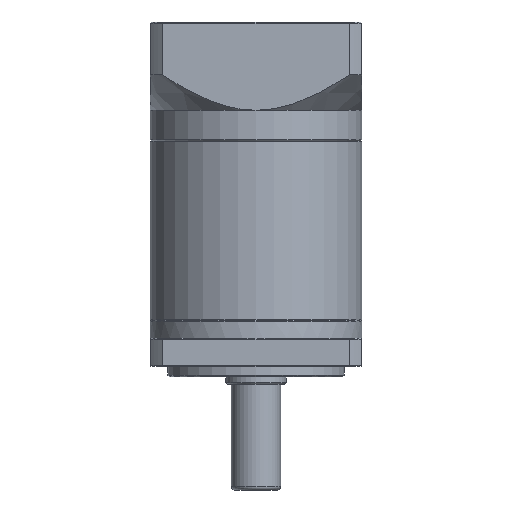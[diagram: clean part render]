
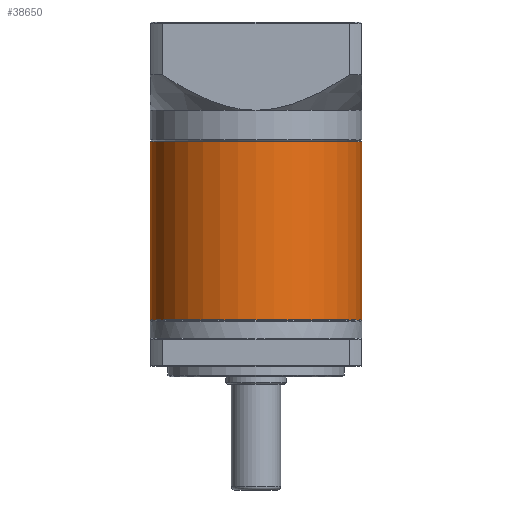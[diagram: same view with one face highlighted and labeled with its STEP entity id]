
A CAD part, front view. The second image highlights one B-rep face of the part: STEP entity #38650.
In plain terms, the highlighted cylindrical face has radius 30 mm (diameter 60 mm), a partial arc.
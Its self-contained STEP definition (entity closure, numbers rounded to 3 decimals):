
#2273 = VECTOR ( 'NONE', #21896, 1000. ) ;
#2776 = CARTESIAN_POINT ( 'NONE',  ( 1.856, 2.135, 121.95 ) ) ;
#5013 = VERTEX_POINT ( 'NONE', #72404 ) ;
#6568 = CARTESIAN_POINT ( 'NONE',  ( 1.856, 2.135, 121.7 ) ) ;
#7989 = LINE ( 'NONE', #70251, #45080 ) ;
#9684 = FACE_OUTER_BOUND ( 'NONE', #44113, .T. ) ;
#11125 = DIRECTION ( 'NONE',  ( -1., 0., 0. ) ) ;
#12241 = CARTESIAN_POINT ( 'NONE',  ( 31.856, 2.135, 71.4 ) ) ;
#14041 = DIRECTION ( 'NONE',  ( 1., 0., 0. ) ) ;
#15410 = CARTESIAN_POINT ( 'NONE',  ( 1.856, 2.135, 71.4 ) ) ;
#18091 = ORIENTED_EDGE ( 'NONE', *, *, #60314, .T. ) ;
#21896 = DIRECTION ( 'NONE',  ( 0., 0., -1. ) ) ;
#22838 = DIRECTION ( 'NONE',  ( 1., 0., 0. ) ) ;
#26908 = CIRCLE ( 'NONE', #70258, 30. ) ;
#28762 = AXIS2_PLACEMENT_3D ( 'NONE', #2776, #33147, #11125 ) ;
#30453 = ORIENTED_EDGE ( 'NONE', *, *, #35629, .F. ) ;
#33147 = DIRECTION ( 'NONE',  ( 0., 0., -1. ) ) ;
#35629 = EDGE_CURVE ( 'NONE', #5013, #47733, #61352, .T. ) ;
#38650 = ADVANCED_FACE ( 'NONE', ( #9684 ), #39785, .T. ) ;
#39785 = CYLINDRICAL_SURFACE ( 'NONE', #28762, 30. ) ;
#41223 = CARTESIAN_POINT ( 'NONE',  ( -28.144, 2.135, 71.4 ) ) ;
#41955 = ORIENTED_EDGE ( 'NONE', *, *, #79663, .T. ) ;
#44113 = EDGE_LOOP ( 'NONE', ( #30453, #18091, #86963, #41955 ) ) ;
#45080 = VECTOR ( 'NONE', #77706, 1000. ) ;
#47733 = VERTEX_POINT ( 'NONE', #12241 ) ;
#55102 = CIRCLE ( 'NONE', #90061, 30. ) ;
#58440 = DIRECTION ( 'NONE',  ( 0., 0., -1. ) ) ;
#60314 = EDGE_CURVE ( 'NONE', #5013, #72536, #55102, .T. ) ;
#61352 = LINE ( 'NONE', #66234, #2273 ) ;
#66234 = CARTESIAN_POINT ( 'NONE',  ( 31.856, 2.135, 121.95 ) ) ;
#67207 = DIRECTION ( 'NONE',  ( 0., 0., 1. ) ) ;
#70251 = CARTESIAN_POINT ( 'NONE',  ( -28.144, 2.135, 121.95 ) ) ;
#70258 = AXIS2_PLACEMENT_3D ( 'NONE', #15410, #67207, #22838 ) ;
#70712 = VERTEX_POINT ( 'NONE', #41223 ) ;
#72404 = CARTESIAN_POINT ( 'NONE',  ( 31.856, 2.135, 121.7 ) ) ;
#72536 = VERTEX_POINT ( 'NONE', #80624 ) ;
#77706 = DIRECTION ( 'NONE',  ( 0., 0., -1. ) ) ;
#79663 = EDGE_CURVE ( 'NONE', #70712, #47733, #26908, .T. ) ;
#80624 = CARTESIAN_POINT ( 'NONE',  ( -28.144, 2.135, 121.7 ) ) ;
#84797 = EDGE_CURVE ( 'NONE', #72536, #70712, #7989, .T. ) ;
#86963 = ORIENTED_EDGE ( 'NONE', *, *, #84797, .T. ) ;
#90061 = AXIS2_PLACEMENT_3D ( 'NONE', #6568, #58440, #14041 ) ;
